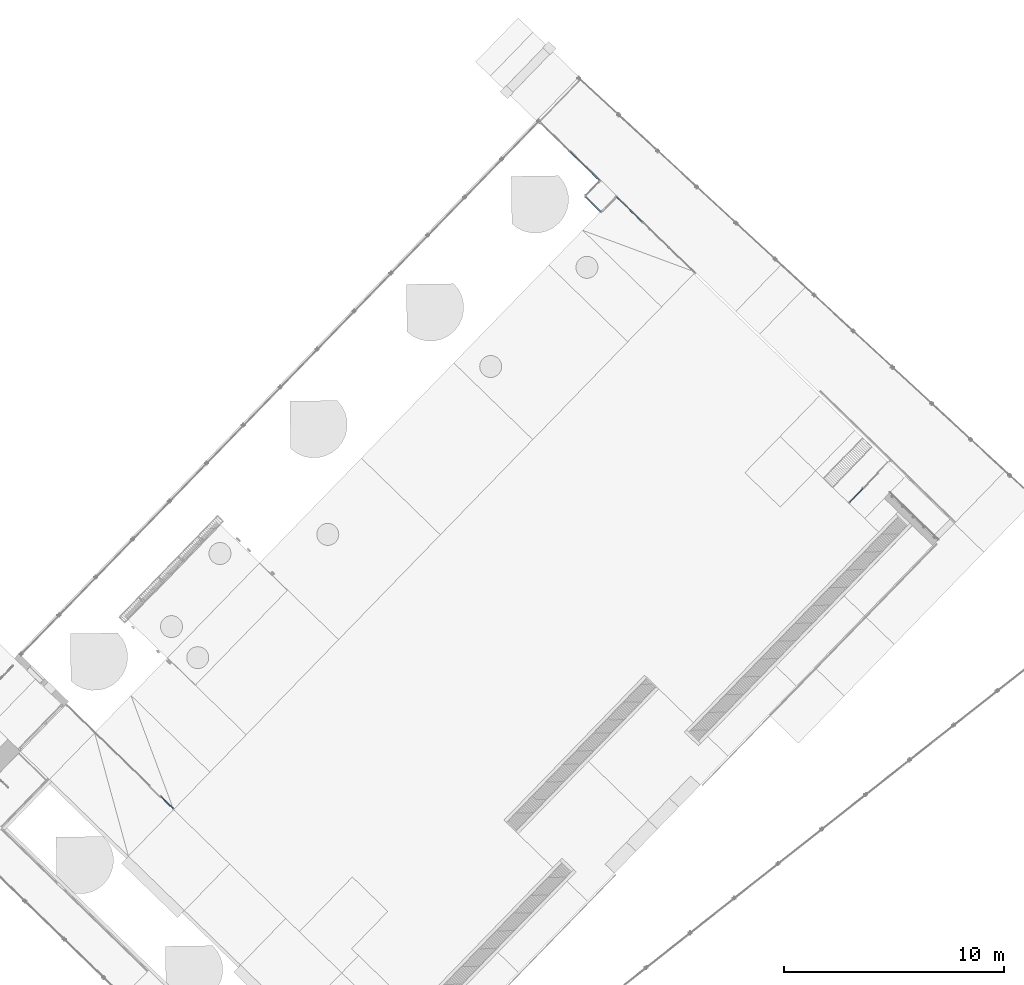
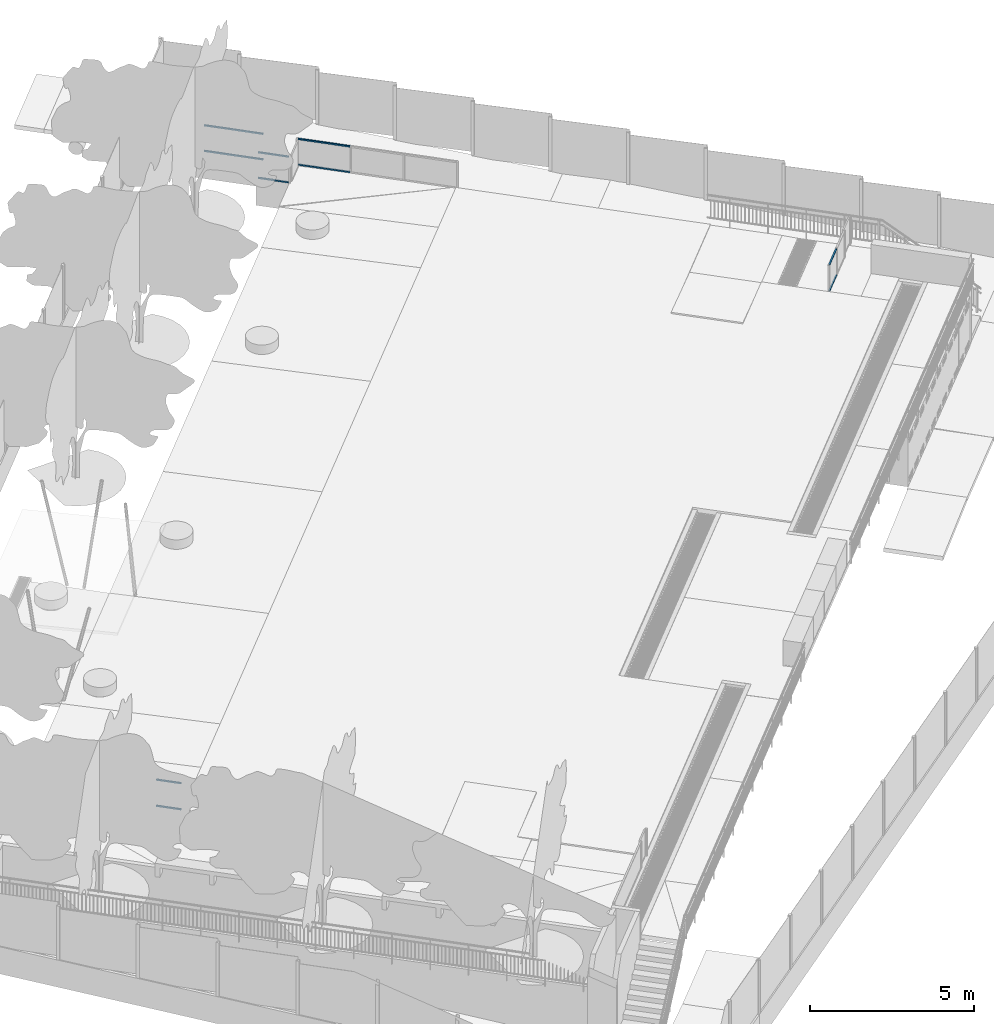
# One storey, part 7 of 37: 10 members, 5 elements without a shape of their own.
"""IFC2X3 building model written with IfcOpenShell, lengths in centimetres."""

from ifc_helpers import new_model, entity, si_unit, converted_unit, derived_unit, direction, frame, frame_2d, origin, place, context, subcontext, project, spatial, rectangle, extrude, material, type_object, element, aggregate, save


model = new_model("IFC2X3")

# Units and contexts
model_context = context("Model", 3, precision=0.001, world=origin(), true_north=direction((0.717475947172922, 0.696583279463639)))
body_context = subcontext(model_context, "Body", "Model", "MODEL_VIEW")
ifc_project = project(units=[si_unit("LENGTHUNIT", "METRE", prefix="CENTI"), si_unit("AREAUNIT", "SQUARE_METRE"), si_unit("VOLUMEUNIT", "CUBIC_METRE"), converted_unit("PLANEANGLEUNIT", "DEGREE", entity("IfcRatioMeasure", 0.0174532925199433), si_unit("PLANEANGLEUNIT", "RADIAN"), dimensions=[0, 0, 0, 0, 0, 0, 0]), si_unit("MASSUNIT", "GRAM", prefix="KILO"), derived_unit("MASSDENSITYUNIT", [(si_unit("MASSUNIT", "GRAM", prefix="KILO"), 1), (si_unit("LENGTHUNIT", "METRE"), -3)]), si_unit("TIMEUNIT", "SECOND"), si_unit("FREQUENCYUNIT", "HERTZ"), si_unit("THERMODYNAMICTEMPERATUREUNIT", "DEGREE_CELSIUS"), derived_unit("THERMALTRANSMITTANCEUNIT", [(si_unit("MASSUNIT", "GRAM", prefix="KILO"), 1), (si_unit("THERMODYNAMICTEMPERATUREUNIT", "KELVIN"), -1), (si_unit("TIMEUNIT", "SECOND"), -3)]), derived_unit("VOLUMETRICFLOWRATEUNIT", [(si_unit("LENGTHUNIT", "METRE"), 3), (si_unit("TIMEUNIT", "SECOND"), -1)]), si_unit("ELECTRICCURRENTUNIT", "AMPERE"), si_unit("ELECTRICVOLTAGEUNIT", "VOLT"), si_unit("POWERUNIT", "WATT"), si_unit("FORCEUNIT", "NEWTON", prefix="KILO"), si_unit("ILLUMINANCEUNIT", "LUX"), si_unit("LUMINOUSFLUXUNIT", "LUMEN"), si_unit("LUMINOUSINTENSITYUNIT", "CANDELA"), derived_unit("USERDEFINED", [(si_unit("MASSUNIT", "GRAM", prefix="KILO"), -1), (si_unit("LENGTHUNIT", "METRE"), -2), (si_unit("TIMEUNIT", "SECOND"), 3), (si_unit("LUMINOUSFLUXUNIT", "LUMEN"), 1)]), derived_unit("LINEARVELOCITYUNIT", [(si_unit("LENGTHUNIT", "METRE"), 1), (si_unit("TIMEUNIT", "SECOND"), -1)]), si_unit("PRESSUREUNIT", "PASCAL"), derived_unit("USERDEFINED", [(si_unit("LENGTHUNIT", "METRE"), -2), (si_unit("MASSUNIT", "GRAM", prefix="KILO"), 1), (si_unit("TIMEUNIT", "SECOND"), -2)])], contexts=[model_context])

# Site, building, storey
site_placement = place(None, frame((0.0, 0.0, 0.0), z_axis=(0.0, 0.0, 1.0), x_axis=(0.696583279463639, 0.717475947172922, 0.0)))
site = spatial("IfcSite", under=ifc_project, at=site_placement, Name="Surface", CompositionType="ELEMENT")
building_placement = place(site_placement, origin())
building = spatial("IfcBuilding", under=site, at=building_placement, CompositionType="ELEMENT")
storey_placement = place(building_placement, origin())
storey = spatial("IfcBuildingStorey", under=building, at=storey_placement, Name="Nivel 0.00", CompositionType="ELEMENT", Elevation=0.0)

# Curtain wall, members
curtain_wall_type_1 = type_object("IfcCurtainWallType", Name="Curtain Wall:REJA_BAJA_100mm", PredefinedType="NOTDEFINED")
curtain_wall_1_placement = place(storey_placement, origin())
curtain_wall_1 = element("IfcCurtainWall", 1, at=curtain_wall_1_placement, inside=storey, type_object=curtain_wall_type_1, Name="Curtain Wall:REJA_BAJA_100mm", ObjectType="Curtain Wall:REJA_BAJA_100mm")
ifc_material = material(Name="Aluminum")
member_1_placement = place(curtain_wall_1_placement, origin())
member_1 = element("IfcMember", 2, at=member_1_placement, material=ifc_material, Name="Curtain Wall:REJA_BAJA_100mm", ObjectType="Curtain Wall:REJA_BAJA_100mm", context=body_context, shape_type="SweptSolid", body=[
    extrude(rectangle(XDim=3.00000000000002, YDim=5.00000000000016, at=frame_2d((2.69784194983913e-14, 2.16493489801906e-13), x_axis=(1.0, 0.0))), frame((1537.55016389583, -1156.74407068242, 250.5), z_axis=(1.0, 0.0, 0.0), x_axis=(0.0, 0.0, -1.0)), (0.0, 0.0, 1.0), 87.6674702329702),
])
member_2_placement = place(curtain_wall_1_placement, origin())
member_2 = element("IfcMember", 3, at=member_2_placement, material=ifc_material, Name="Curtain Wall:REJA_BAJA_100mm", ObjectType="Curtain Wall:REJA_BAJA_100mm", context=body_context, shape_type="SweptSolid", body=[
    extrude(rectangle(XDim=2.99999999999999, YDim=5.00000000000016, at=frame_2d((1.35447209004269e-14, 2.16493489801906e-13), x_axis=(1.0, 0.0))), frame((1625.2176341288, -1156.74407068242, 153.5), z_axis=(-1.0, 0.0, 0.0), x_axis=(0.0, 0.0, -1.0)), (0.0, 0.0, 1.0), 87.6674702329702),
])
aggregate(curtain_wall_1, [member_1, member_2])

curtain_wall_2_placement = place(storey_placement, origin())
curtain_wall_2 = element("IfcCurtainWall", 4, at=curtain_wall_2_placement, inside=storey, type_object=curtain_wall_type_1, Name="Curtain Wall:REJA_BAJA_100mm", ObjectType="Curtain Wall:REJA_BAJA_100mm")
member_3_placement = place(curtain_wall_2_placement, origin())
member_3 = element("IfcMember", 5, at=member_3_placement, material=ifc_material, Name="Curtain Wall:REJA_BAJA_100mm", ObjectType="Curtain Wall:REJA_BAJA_100mm", context=body_context, shape_type="SweptSolid", body=[
    extrude(rectangle(XDim=3.00000000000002, YDim=5.00000000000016, at=frame_2d((2.70894418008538e-14, 0.0), x_axis=(1.0, 0.0))), frame((-1608.1443741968, 159.903218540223, 250.5), z_axis=(0.0, -1.0, 0.0), x_axis=(0.0, 0.0, -1.0)), (0.0, 0.0, 1.0), 77.3537245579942),
])
member_4_placement = place(curtain_wall_2_placement, origin())
member_4 = element("IfcMember", 6, at=member_4_placement, material=ifc_material, Name="Curtain Wall:REJA_BAJA_100mm", ObjectType="Curtain Wall:REJA_BAJA_100mm", context=body_context, shape_type="SweptSolid", body=[
    extrude(rectangle(XDim=2.99999999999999, YDim=5.00000000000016, at=frame_2d((1.35447209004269e-14, -2.16715534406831e-13), x_axis=(1.0, 0.0))), frame((-1608.1443741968, 82.5494939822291, 153.5), z_axis=(0.0, 1.0, 0.0), x_axis=(0.0, 0.0, -1.0)), (0.0, 0.0, 1.0), 77.3537245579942),
])
aggregate(curtain_wall_2, [member_3, member_4])

curtain_wall_3_placement = place(storey_placement, origin())
curtain_wall_3 = element("IfcCurtainWall", 7, at=curtain_wall_3_placement, inside=storey, type_object=curtain_wall_type_1, Name="Curtain Wall:REJA_BAJA_100mm", ObjectType="Curtain Wall:REJA_BAJA_100mm")
member_5_placement = place(curtain_wall_3_placement, origin())
member_5 = element("IfcMember", 8, at=member_5_placement, material=ifc_material, Name="Curtain Wall:REJA_BAJA_100mm", ObjectType="Curtain Wall:REJA_BAJA_100mm", context=body_context, shape_type="SweptSolid", body=[
    extrude(rectangle(XDim=3.00000000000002, YDim=5.00000000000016, at=frame_2d((2.70894418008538e-14, 0.0), x_axis=(1.0, 0.0))), frame((1796.6277064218, 683.72563048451, 246.5), z_axis=(0.0, 1.0, 0.0), x_axis=(0.0, 0.0, -1.0)), (0.0, 0.0, 1.0), 184.0),
])
member_6_placement = place(curtain_wall_3_placement, origin())
member_6 = element("IfcMember", 9, at=member_6_placement, material=ifc_material, Name="Curtain Wall:REJA_BAJA_100mm", ObjectType="Curtain Wall:REJA_BAJA_100mm", context=body_context, shape_type="SweptSolid", body=[
    extrude(rectangle(XDim=2.99999999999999, YDim=5.00000000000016, at=frame_2d((-1.35447209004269e-14, 0.0), x_axis=(1.0, 0.0))), frame((1796.6277064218, 867.72563048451, 151.5), z_axis=(0.0, -1.0, 0.0), x_axis=(0.0, 0.0, -1.0)), (0.0, 0.0, 1.0), 184.0),
])
aggregate(curtain_wall_3, [member_5, member_6])

curtain_wall_type_2 = type_object("IfcCurtainWallType", Name="Curtain Wall:REJA_BAJA_SIMPLE_100mm", PredefinedType="NOTDEFINED")
curtain_wall_4_placement = place(storey_placement, origin())
curtain_wall_4 = element("IfcCurtainWall", 10, at=curtain_wall_4_placement, inside=storey, type_object=curtain_wall_type_2, Name="Curtain Wall:REJA_BAJA_SIMPLE_100mm", ObjectType="Curtain Wall:REJA_BAJA_SIMPLE_100mm")
member_7_placement = place(curtain_wall_4_placement, origin())
member_7 = element("IfcMember", 11, at=member_7_placement, material=ifc_material, Name="Curtain Wall:REJA_BAJA_SIMPLE_100mm", ObjectType="Curtain Wall:REJA_BAJA_SIMPLE_100mm", context=body_context, shape_type="SweptSolid", body=[
    extrude(rectangle(XDim=3.00000000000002, YDim=5.00000000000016, at=frame_2d((2.70894418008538e-14, 0.0), x_axis=(1.0, 0.0))), frame((1698.05257485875, 578.6492328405, 246.5), z_axis=(0.0, 1.0, 0.0), x_axis=(0.0, 0.0, -1.0)), (0.0, 0.0, 1.0), 95.0763976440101),
])
member_8_placement = place(curtain_wall_4_placement, origin())
member_8 = element("IfcMember", 12, at=member_8_placement, material=ifc_material, Name="Curtain Wall:REJA_BAJA_SIMPLE_100mm", ObjectType="Curtain Wall:REJA_BAJA_SIMPLE_100mm", context=body_context, shape_type="SweptSolid", body=[
    extrude(rectangle(XDim=2.99999999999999, YDim=5.00000000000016, at=frame_2d((-1.35447209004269e-14, 0.0), x_axis=(1.0, 0.0))), frame((1698.05257485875, 673.72563048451, 151.5), z_axis=(0.0, -1.0, 0.0), x_axis=(0.0, 0.0, -1.0)), (0.0, 0.0, 1.0), 95.0763976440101),
])
aggregate(curtain_wall_4, [member_7, member_8])

curtain_wall_5_placement = place(storey_placement, origin())
curtain_wall_5 = element("IfcCurtainWall", 13, at=curtain_wall_5_placement, inside=storey, type_object=curtain_wall_type_1, Name="Curtain Wall:REJA_BAJA_100mm", ObjectType="Curtain Wall:REJA_BAJA_100mm")
member_9_placement = place(curtain_wall_5_placement, origin())
member_9 = element("IfcMember", 14, at=member_9_placement, material=ifc_material, Name="Curtain Wall:REJA_BAJA_100mm", ObjectType="Curtain Wall:REJA_BAJA_100mm", context=body_context, shape_type="SweptSolid", body=[
    extrude(rectangle(XDim=3.00000000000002, YDim=5.00000000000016, at=frame_2d((2.70894418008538e-14, 2.16715534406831e-13), x_axis=(1.0, 0.0))), frame((1796.6277064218, 411.3158995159, 246.5), z_axis=(0.0, 1.0, 0.0), x_axis=(0.0, 0.0, -1.0)), (0.0, 0.0, 1.0), 162.33333335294),
])
member_10_placement = place(curtain_wall_5_placement, origin())
member_10 = element("IfcMember", 15, at=member_10_placement, material=ifc_material, Name="Curtain Wall:REJA_BAJA_100mm", ObjectType="Curtain Wall:REJA_BAJA_100mm", context=body_context, shape_type="SweptSolid", body=[
    extrude(rectangle(XDim=2.99999999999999, YDim=5.00000000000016, at=frame_2d((-1.35447209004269e-14, 0.0), x_axis=(1.0, 0.0))), frame((1796.6277064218, 573.64923286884, 151.5), z_axis=(0.0, -1.0, 0.0), x_axis=(0.0, 0.0, -1.0)), (0.0, 0.0, 1.0), 162.33333335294),
])
aggregate(curtain_wall_5, [member_9, member_10])

save(model, "model.ifc")
